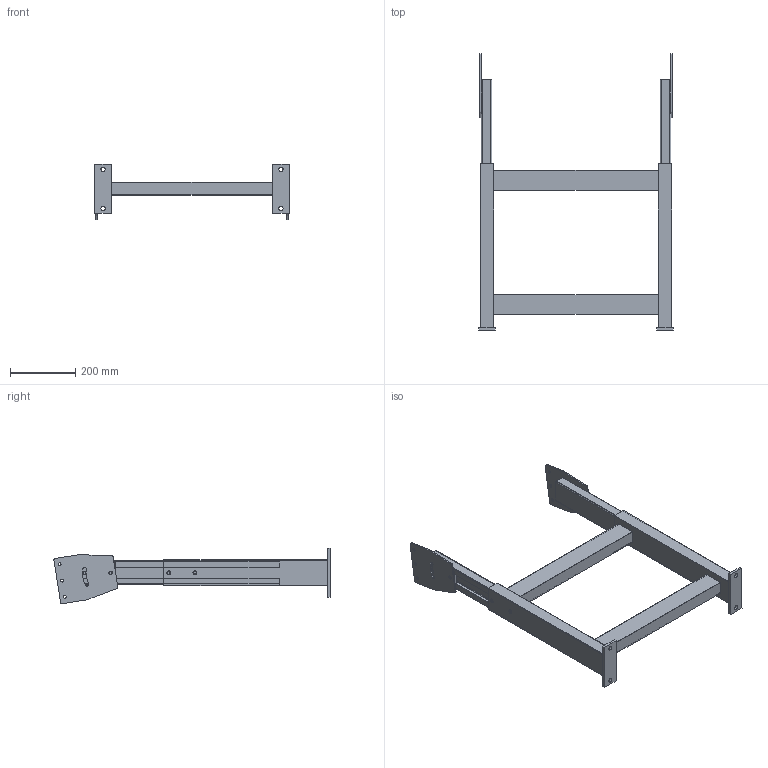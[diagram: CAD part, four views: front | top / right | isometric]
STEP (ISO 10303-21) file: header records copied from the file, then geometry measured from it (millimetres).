
FILE_DESCRIPTION (( 'STEP AP203' ), '1' );
FILE_NAME ('G1_011_01_005 Sostegno.STEP', '2019-04-04T06:54:11', ( 'Luca' ), ( '' ), 'SwSTEP 2.0', 'SolidWorks 2016', '' );
FILE_SCHEMA (( 'CONFIG_CONTROL_DESIGN' ));
Length unit declared in the file: millimetre
Products named in the file (7): C1_048_05_003_C1_048_05_003; C1_048_05_001_C1_048_05_001; C1_070_01_009_C1_070_01_009; C1_070_01_010_C1_070_01_010; C1_069_00_008_C1_069_00_008; G1_011_01_005 Sostegno; C1_048_05_002_C1_048_05_002
Assembly tree (12 placements, depth 3):
  G1_011_01_005 Sostegno
    C1_070_01_009_C1_070_01_009
      C1_070_01_010_C1_070_01_010
      C1_048_05_003_C1_048_05_003  x2
    C1_069_00_008_C1_069_00_008  x2
    C1_048_05_001_C1_048_05_001  x4
    C1_048_05_002_C1_048_05_002  x2
Bounding box: 594 x 844.04 x 169.23 mm (x, y, z)
Volume: 1776382.4 mm3; surface area: 1468542.4 mm2
Topology: 14 solids, 14 shells, 216 faces, 512 edges, 324 vertices
Faces by surface type: plane 152, cylinder 64
Full cylindrical faces by diameter (mm): 8.5 x8, 9 x6, 11 x2, 12 x4, 13 x4
Entity records: 4447 total; most frequent: DIRECTION 628, CARTESIAN_POINT 604, ORIENTED_EDGE 560, EDGE_CURVE 280, LINE 212, VECTOR 212, AXIS2_PLACEMENT_3D 208, VERTEX_POINT 184
